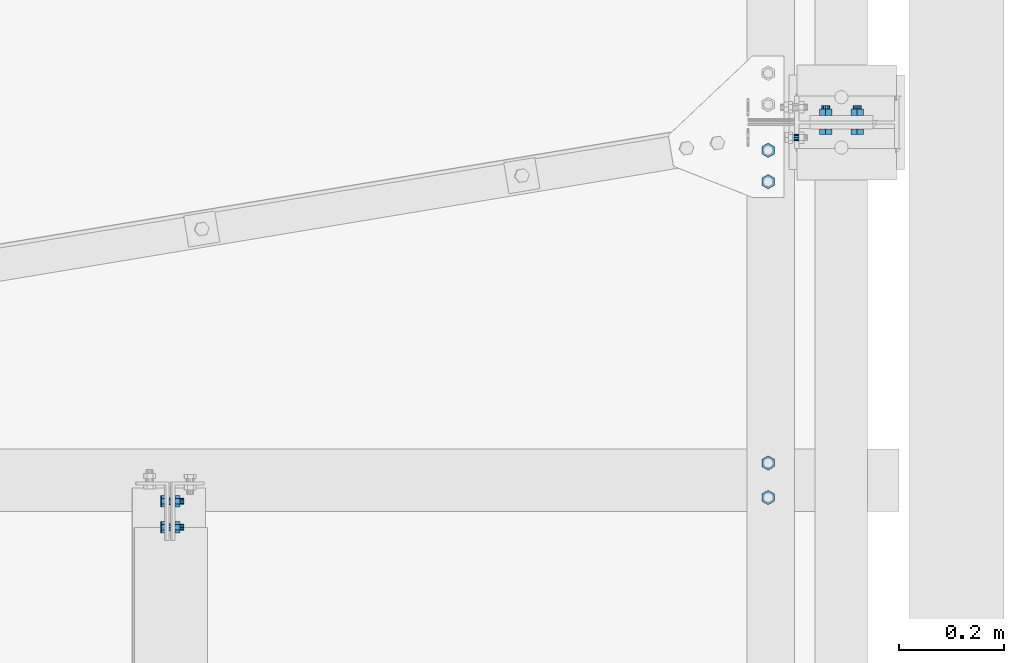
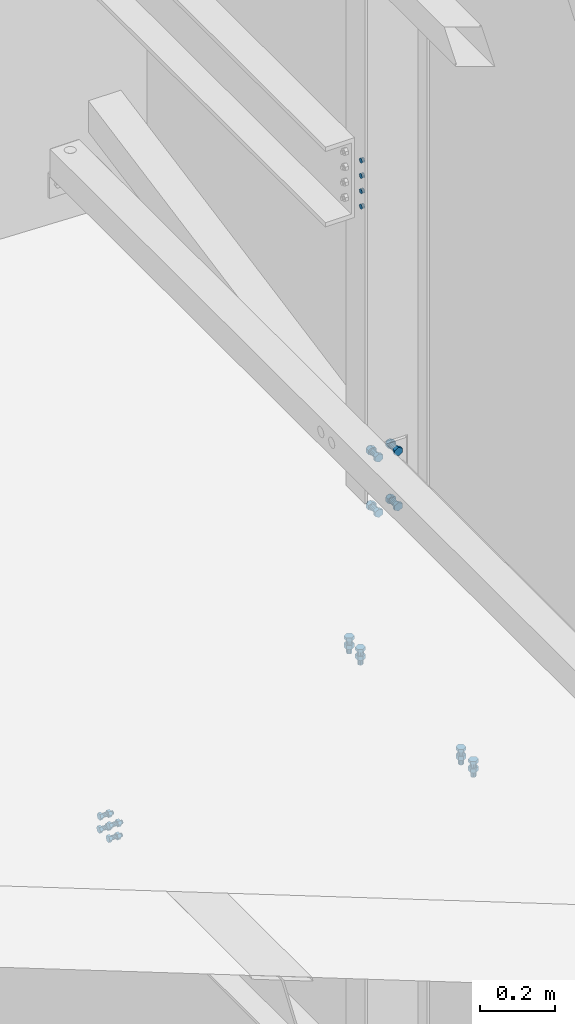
# One storey, part 397 of 3134: 5 mechanical fasteners, 3 elements without a shape of their own.
"""IFC2X3 building model written with IfcOpenShell, lengths in millimetres."""

from ifc_helpers import new_model, si_unit, frame, origin_with_axes, place, context, subcontext, project, spatial, faceted_brep, source, transform, mapped, material, type_object, element, aggregate, save


model = new_model("IFC2X3")

# Units and contexts
model_context = context("Model", 3, precision=1e-05, world=origin_with_axes())
body_context = subcontext(model_context, "Body", "Model", "MODEL_VIEW")
ifc_project = project(units=[si_unit("LENGTHUNIT", "METRE", prefix="MILLI"), si_unit("AREAUNIT", "SQUARE_METRE"), si_unit("VOLUMEUNIT", "CUBIC_METRE"), si_unit("MASSUNIT", "GRAM", prefix="KILO"), si_unit("TIMEUNIT", "SECOND"), si_unit("PLANEANGLEUNIT", "RADIAN"), si_unit("SOLIDANGLEUNIT", "STERADIAN"), si_unit("THERMODYNAMICTEMPERATUREUNIT", "DEGREE_CELSIUS"), si_unit("LUMINOUSINTENSITYUNIT", "LUMEN")], contexts=[model_context])

# Site, building, storey
site_placement = place(None, origin_with_axes())
site = spatial("IfcSite", under=ifc_project, at=site_placement, CompositionType="ELEMENT")
building_placement = place(site_placement, origin_with_axes())
building = spatial("IfcBuilding", under=site, at=building_placement, Name="Undefined", CompositionType="ELEMENT")
storey_placement = place(building_placement, origin_with_axes())
storey = spatial("IfcBuildingStorey", under=building, at=storey_placement, Name="Undefined", CompositionType="ELEMENT", Elevation=0.0)

# Assembly, mechanical fastener
assembly_1_placement = place(storey_placement, origin_with_axes())
assembly_1 = element("IfcElementAssembly", 1, at=assembly_1_placement, inside=storey, Name="IPE200", AssemblyPlace="NOTDEFINED", PredefinedType="RIGID_FRAME")
ifc_material = material(Name="8.8")
mechanical_fastener_type = type_object("IfcMechanicalFastenerType", Name="Bolt assembly")
shared_shape_1 = source(origin_with_axes(), body_context, "Body", "Brep", [
    faceted_brep([(13.856406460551, -20.0, 0.0), (6.92820323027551, -20.0, 12.0), (-6.92820323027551, -20.0, 12.0), (-13.856406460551, -20.0, 1.69692038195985e-15), (-6.92820323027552, -20.0, -12.0), (6.9282032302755, -20.0, -12.0), (6.9282032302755, -10.0, -12.0), (-6.92820323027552, -10.0, -12.0), (-13.856406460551, -10.0, 1.69692038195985e-15), (-6.92820323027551, -10.0, 12.0), (6.92820323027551, -10.0, 12.0), (13.856406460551, -10.0, 0.0), (8.0, -10.0, 0.0), (6.92820323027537, -10.0, 4.00000000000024), (3.99999999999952, -10.0, 6.92820323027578), (-8.29068785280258e-13, -10.0, 8.0), (-4.00000000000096, -10.0, 6.92820323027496), (-6.9282032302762, -10.0, 3.99999999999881), (-8.0, -10.0, -1.65813757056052e-12), (-6.92820323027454, -10.0, -4.00000000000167), (-3.99999999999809, -10.0, -6.92820323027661), (2.47832457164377e-12, -10.0, -8.0), (4.00000000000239, -10.0, -6.92820323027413), (6.92820323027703, -10.0, -3.99999999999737), (6.92820323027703, 35.0000000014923, -3.99999999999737), (4.00000000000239, 35.0000000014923, -6.92820323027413), (2.47832457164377e-12, 35.0000000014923, -8.0), (-3.99999999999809, 35.0000000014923, -6.92820323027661), (-6.92820323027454, 35.0000000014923, -4.00000000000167), (-8.0, 35.0000000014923, -1.65813757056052e-12), (-6.9282032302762, 35.0000000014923, 3.99999999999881), (-4.00000000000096, 35.0000000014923, 6.92820323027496), (-8.29068785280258e-13, 35.0000000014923, 8.0), (3.99999999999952, 35.0000000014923, 6.92820323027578), (6.92820323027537, 35.0000000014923, 4.00000000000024), (8.0, 35.0000000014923, 0.0), (13.856406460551, 15.5999999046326, 0.0), (6.92820323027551, 15.5999999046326, 12.0), (-6.92820323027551, 15.5999999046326, 12.0), (-13.856406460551, 15.5999999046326, 1.69692038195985e-15), (-6.92820323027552, 15.5999999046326, -12.0), (6.9282032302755, 15.5999999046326, -12.0), (6.9282032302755, 28.5999999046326, -12.0), (-6.92820323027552, 28.5999999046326, -12.0), (-13.856406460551, 28.5999999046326, 1.69692038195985e-15), (-6.92820323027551, 28.5999999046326, 12.0), (6.92820323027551, 28.5999999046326, 12.0), (13.856406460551, 28.5999999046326, 0.0)], [[[0, 1, 2, 3, 4, 5]], [[6, 7, 8, 9, 10, 11]], [[0, 11, 10, 1]], [[1, 10, 9, 2]], [[2, 9, 8, 3]], [[3, 8, 7, 4]], [[4, 7, 6, 5]], [[5, 6, 11, 0]], [[12, 13, 14, 15, 16, 17, 18, 19, 20, 21, 22, 23]], [[24, 25, 26, 27, 28, 29, 30, 31, 32, 33, 34, 35]], [[12, 35, 34, 13]], [[13, 34, 33, 14]], [[14, 33, 32, 15]], [[15, 32, 31, 16]], [[16, 31, 30, 17]], [[17, 30, 29, 18]], [[18, 29, 28, 19]], [[19, 28, 27, 20]], [[20, 27, 26, 21]], [[21, 26, 25, 22]], [[22, 25, 24, 23]], [[23, 24, 35, 12]], [[36, 37, 38, 39, 40, 41]], [[42, 43, 44, 45, 46, 47]], [[36, 47, 46, 37]], [[37, 46, 45, 38]], [[38, 45, 44, 39]], [[39, 44, 43, 40]], [[40, 43, 42, 41]], [[41, 42, 47, 36]]]),
    faceted_brep([(9.0, -9.89999997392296, 0.0), (7.79422863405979, -9.89999997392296, 4.50000000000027), (4.49999999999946, -9.89999997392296, 7.79422863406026), (-9.3270238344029e-13, -9.89999997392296, 9.0), (-4.50000000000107, -9.89999997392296, 7.79422863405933), (-7.79422863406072, -9.89999997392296, 4.49999999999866), (-9.0, -9.89999997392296, -1.86540476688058e-12), (-7.79422863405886, -9.89999997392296, -4.50000000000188), (-4.49999999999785, -9.89999997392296, -7.79422863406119), (2.78811514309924e-12, -9.89999997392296, -9.0), (4.50000000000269, -9.89999997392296, -7.7942286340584), (7.79422863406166, -9.89999997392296, -4.49999999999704), (7.79422863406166, 0.100000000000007, -4.49999999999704), (4.50000000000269, 0.100000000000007, -7.7942286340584), (2.78811514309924e-12, 0.100000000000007, -9.0), (-4.49999999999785, 0.100000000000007, -7.79422863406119), (-7.79422863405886, 0.100000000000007, -4.50000000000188), (-9.0, 0.100000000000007, -1.86540476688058e-12), (-7.79422863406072, 0.100000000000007, 4.49999999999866), (-4.50000000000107, 0.100000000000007, 7.79422863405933), (-9.3270238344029e-13, 0.100000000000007, 9.0), (4.49999999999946, 0.100000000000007, 7.79422863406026), (7.79422863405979, 0.100000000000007, 4.50000000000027), (9.0, 0.100000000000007, 0.0), (9.0, -3.46568413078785e-07, 0.0), (7.79422863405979, -3.46568413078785e-07, 4.50000000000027), (4.49999999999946, -3.46568413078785e-07, 7.79422863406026), (-9.3270238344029e-13, -3.46568413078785e-07, 9.0), (-4.50000000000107, -3.46568413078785e-07, 7.79422863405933), (-7.79422863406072, -3.46568413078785e-07, 4.49999999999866), (-9.0, -3.46568413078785e-07, -1.86540476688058e-12), (-7.79422863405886, -3.46568413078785e-07, -4.50000000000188), (-4.49999999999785, -3.46568413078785e-07, -7.79422863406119), (2.78811514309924e-12, -3.46568413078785e-07, -9.0), (4.50000000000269, -3.46568413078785e-07, -7.7942286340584), (7.79422863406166, -3.46568413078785e-07, -4.49999999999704), (7.79422863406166, 5.59999990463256, -4.49999999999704), (4.50000000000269, 5.59999990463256, -7.7942286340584), (2.78811514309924e-12, 5.59999990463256, -9.0), (-4.49999999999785, 5.59999990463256, -7.79422863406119), (-7.79422863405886, 5.59999990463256, -4.50000000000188), (-9.0, 5.59999990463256, -1.86540476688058e-12), (-7.79422863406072, 5.59999990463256, 4.49999999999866), (-4.50000000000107, 5.59999990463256, 7.79422863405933), (-9.3270238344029e-13, 5.59999990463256, 9.0), (4.49999999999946, 5.59999990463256, 7.79422863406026), (7.79422863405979, 5.59999990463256, 4.50000000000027), (9.0, 5.59999990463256, 0.0), (9.0, 5.49999990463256, 0.0), (7.79422863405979, 5.49999990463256, 4.50000000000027), (4.49999999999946, 5.49999990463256, 7.79422863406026), (-9.3270238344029e-13, 5.49999990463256, 9.0), (-4.50000000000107, 5.49999990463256, 7.79422863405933), (-7.79422863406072, 5.49999990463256, 4.49999999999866), (-9.0, 5.49999990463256, -1.86540476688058e-12), (-7.79422863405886, 5.49999990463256, -4.50000000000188), (-4.49999999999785, 5.49999990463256, -7.79422863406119), (2.78811514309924e-12, 5.49999990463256, -9.0), (4.50000000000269, 5.49999990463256, -7.7942286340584), (7.79422863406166, 5.49999990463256, -4.49999999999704), (7.79422863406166, 15.5999999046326, -4.49999999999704), (4.50000000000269, 15.5999999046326, -7.7942286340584), (2.78811514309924e-12, 15.5999999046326, -9.0), (-4.49999999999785, 15.5999999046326, -7.79422863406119), (-7.79422863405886, 15.5999999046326, -4.50000000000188), (-9.0, 15.5999999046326, -1.86540476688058e-12), (-7.79422863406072, 15.5999999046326, 4.49999999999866), (-4.50000000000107, 15.5999999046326, 7.79422863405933), (-9.3270238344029e-13, 15.5999999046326, 9.0), (4.49999999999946, 15.5999999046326, 7.79422863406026), (7.79422863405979, 15.5999999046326, 4.50000000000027), (9.0, 15.5999999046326, 0.0)], [[[0, 1, 2, 3, 4, 5, 6, 7, 8, 9, 10, 11]], [[12, 13, 14, 15, 16, 17, 18, 19, 20, 21, 22, 23]], [[0, 23, 22, 1]], [[1, 22, 21, 2]], [[2, 21, 20, 3]], [[3, 20, 19, 4]], [[4, 19, 18, 5]], [[5, 18, 17, 6]], [[6, 17, 16, 7]], [[7, 16, 15, 8]], [[8, 15, 14, 9]], [[9, 14, 13, 10]], [[10, 13, 12, 11]], [[11, 12, 23, 0]], [[24, 25, 26, 27, 28, 29, 30, 31, 32, 33, 34, 35]], [[36, 37, 38, 39, 40, 41, 42, 43, 44, 45, 46, 47]], [[24, 47, 46, 25]], [[25, 46, 45, 26]], [[26, 45, 44, 27]], [[27, 44, 43, 28]], [[28, 43, 42, 29]], [[29, 42, 41, 30]], [[30, 41, 40, 31]], [[31, 40, 39, 32]], [[32, 39, 38, 33]], [[33, 38, 37, 34]], [[34, 37, 36, 35]], [[35, 36, 47, 24]], [[48, 49, 50, 51, 52, 53, 54, 55, 56, 57, 58, 59]], [[60, 61, 62, 63, 64, 65, 66, 67, 68, 69, 70, 71]], [[48, 71, 70, 49]], [[49, 70, 69, 50]], [[50, 69, 68, 51]], [[51, 68, 67, 52]], [[52, 67, 66, 53]], [[53, 66, 65, 54]], [[54, 65, 64, 55]], [[55, 64, 63, 56]], [[56, 63, 62, 57]], [[57, 62, 61, 58]], [[58, 61, 60, 59]], [[59, 60, 71, 48]]]),
])
mechanical_fastener_1_placement = place(assembly_1_placement, frame((79225.0, 24647.2000000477, 4064.781243), z_axis=(1.0, 0.0, 0.0), x_axis=(0.0, 0.0, -1.0)))
mechanical_fastener_1 = element("IfcMechanicalFastener", 2, at=mechanical_fastener_1_placement, type_object=mechanical_fastener_type, material=ifc_material, Name="Bolt assembly", NominalDiameter=16.0, NominalLength=45.0, context=body_context, shape_type="MappedRepresentation", body=[
    mapped(shared_shape_1, transform((0.0, 4.54747350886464e-13, -30.0000000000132))),
    mapped(shared_shape_1, transform((180.0, 0.0, -30.0))),
    mapped(shared_shape_1, transform((0.0, 4.54747350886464e-13, 30.0000000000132))),
    mapped(shared_shape_1, transform((180.0, 0.0, 30.0))),
])

# Assembly, mechanical fasteners
assembly_2_placement = place(storey_placement, origin_with_axes())
assembly_2 = element("IfcElementAssembly", 3, at=assembly_2_placement, inside=storey, Name="UPN260", AssemblyPlace="NOTDEFINED", PredefinedType="RIGID_FRAME")
shared_shape_2 = source(origin_with_axes(), body_context, "Body", "Brep", [
    faceted_brep([(13.856406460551, -10.0, 0.0), (6.92820323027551, -10.0, 12.0), (-6.92820323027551, -10.0, 12.0), (-13.856406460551, -10.0, 1.69692038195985e-15), (-6.92820323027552, -10.0, -12.0), (6.9282032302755, -10.0, -12.0), (6.9282032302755, 0.0, -12.0), (-6.92820323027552, 0.0, -12.0), (-13.856406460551, 0.0, 1.69692038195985e-15), (-6.92820323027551, 0.0, 12.0), (6.92820323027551, 0.0, 12.0), (13.856406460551, 0.0, 0.0), (8.0, 0.0, 0.0), (6.92820323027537, 0.0, 4.00000000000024), (3.99999999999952, 0.0, 6.92820323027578), (-8.29068785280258e-13, 0.0, 8.0), (-4.00000000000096, 0.0, 6.92820323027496), (-6.9282032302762, 0.0, 3.99999999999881), (-8.0, 0.0, -1.65813757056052e-12), (-6.92820323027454, 0.0, -4.00000000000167), (-3.99999999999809, 0.0, -6.92820323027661), (2.47832457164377e-12, 0.0, -8.0), (4.00000000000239, 0.0, -6.92820323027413), (6.92820323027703, 0.0, -3.99999999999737), (6.92820323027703, 45.0, -3.99999999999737), (4.00000000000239, 45.0, -6.92820323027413), (2.47832457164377e-12, 45.0, -8.0), (-3.99999999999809, 45.0, -6.92820323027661), (-6.92820323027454, 45.0, -4.00000000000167), (-8.0, 45.0, -1.65813757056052e-12), (-6.9282032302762, 45.0, 3.99999999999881), (-4.00000000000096, 45.0, 6.92820323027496), (-8.29068785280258e-13, 45.0, 8.0), (3.99999999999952, 45.0, 6.92820323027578), (6.92820323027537, 45.0, 4.00000000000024), (8.0, 45.0, 0.0), (13.856406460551, 13.9999999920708, 0.0), (6.92820323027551, 13.9999999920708, 12.0), (-6.92820323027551, 13.9999999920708, 12.0), (-13.856406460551, 13.9999999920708, 1.69692038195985e-15), (-6.92820323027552, 13.9999999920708, -12.0), (6.9282032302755, 13.9999999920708, -12.0), (6.9282032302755, 27.0, -12.0), (-6.92820323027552, 27.0, -12.0), (-13.856406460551, 27.0, 1.69692038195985e-15), (-6.92820323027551, 27.0, 12.0), (6.92820323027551, 27.0, 12.0), (13.856406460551, 27.0, 0.0)], [[[0, 1, 2, 3, 4, 5]], [[6, 7, 8, 9, 10, 11]], [[0, 11, 10, 1]], [[1, 10, 9, 2]], [[2, 9, 8, 3]], [[3, 8, 7, 4]], [[4, 7, 6, 5]], [[5, 6, 11, 0]], [[12, 13, 14, 15, 16, 17, 18, 19, 20, 21, 22, 23]], [[24, 25, 26, 27, 28, 29, 30, 31, 32, 33, 34, 35]], [[12, 35, 34, 13]], [[13, 34, 33, 14]], [[14, 33, 32, 15]], [[15, 32, 31, 16]], [[16, 31, 30, 17]], [[17, 30, 29, 18]], [[18, 29, 28, 19]], [[19, 28, 27, 20]], [[20, 27, 26, 21]], [[21, 26, 25, 22]], [[22, 25, 24, 23]], [[23, 24, 35, 12]], [[36, 37, 38, 39, 40, 41]], [[42, 43, 44, 45, 46, 47]], [[36, 47, 46, 37]], [[37, 46, 45, 38]], [[38, 45, 44, 39]], [[39, 44, 43, 40]], [[40, 43, 42, 41]], [[41, 42, 47, 36]]]),
    faceted_brep([(9.0, -3.46568413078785e-07, 0.0), (7.79422863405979, -3.46568413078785e-07, 4.50000000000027), (4.49999999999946, -3.46568413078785e-07, 7.79422863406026), (-9.3270238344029e-13, -3.46568413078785e-07, 9.0), (-4.50000000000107, -3.46568413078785e-07, 7.79422863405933), (-7.79422863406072, -3.46568413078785e-07, 4.49999999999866), (-9.0, -3.46568413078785e-07, -1.86540476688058e-12), (-7.79422863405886, -3.46568413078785e-07, -4.50000000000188), (-4.49999999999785, -3.46568413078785e-07, -7.79422863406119), (2.78811514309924e-12, -3.46568413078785e-07, -9.0), (4.50000000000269, -3.46568413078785e-07, -7.7942286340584), (7.79422863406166, -3.46568413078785e-07, -4.49999999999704), (7.79422863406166, 14.1000000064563, -4.49999999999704), (4.50000000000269, 14.1000000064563, -7.7942286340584), (2.78811514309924e-12, 14.1000000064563, -9.0), (-4.49999999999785, 14.1000000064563, -7.79422863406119), (-7.79422863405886, 14.1000000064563, -4.50000000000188), (-9.0, 14.1000000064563, -1.86540476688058e-12), (-7.79422863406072, 14.1000000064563, 4.49999999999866), (-4.50000000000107, 14.1000000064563, 7.79422863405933), (-9.3270238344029e-13, 14.1000000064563, 9.0), (4.49999999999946, 14.1000000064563, 7.79422863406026), (7.79422863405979, 14.1000000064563, 4.50000000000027), (9.0, 14.1000000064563, 0.0)], [[[0, 1, 2, 3, 4, 5, 6, 7, 8, 9, 10, 11]], [[12, 13, 14, 15, 16, 17, 18, 19, 20, 21, 22, 23]], [[0, 23, 22, 1]], [[1, 22, 21, 2]], [[2, 21, 20, 3]], [[3, 20, 19, 4]], [[4, 19, 18, 5]], [[5, 18, 17, 6]], [[6, 17, 16, 7]], [[7, 16, 15, 8]], [[8, 15, 14, 9]], [[9, 14, 13, 10]], [[10, 13, 12, 11]], [[11, 12, 23, 0]]]),
])
mechanical_fastener_2_placement = place(assembly_2_placement, frame((79085.0000000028, 24536.683333, 3532.96480900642), z_axis=(-0.99999999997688, 0.0, -6.80000067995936e-06), x_axis=(0.0, 1.0, 0.0)))
mechanical_fastener_2 = element("IfcMechanicalFastener", 4, at=mechanical_fastener_2_placement, type_object=mechanical_fastener_type, material=ifc_material, Name="Bolt assembly", NominalDiameter=16.0, NominalLength=45.0, context=body_context, shape_type="MappedRepresentation", body=[
    mapped(shared_shape_2, transform((0.0, 0.0, 0.0))),
    mapped(shared_shape_2, transform((59.9999999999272, 0.0, 5.40239852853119e-10))),
])
mechanical_fastener_3_placement = place(assembly_2_placement, frame((79085.0, 23933.663333, 3532.964809), z_axis=(-1.0, 0.0, 0.0), x_axis=(0.0, 1.0, 0.0)))
mechanical_fastener_3 = element("IfcMechanicalFastener", 5, at=mechanical_fastener_3_placement, type_object=mechanical_fastener_type, material=ifc_material, Name="Bolt assembly", NominalDiameter=16.0, NominalLength=45.0, context=body_context, shape_type="MappedRepresentation", body=[
    mapped(shared_shape_2, transform((0.0, 0.0, 0.0))),
    mapped(shared_shape_2, transform((66.0, 0.0, 0.0))),
])
aggregate(assembly_2, [mechanical_fastener_2, mechanical_fastener_3])

# Assembly, mechanical fastener
assembly_3_placement = place(storey_placement, origin_with_axes())
assembly_3 = element("IfcElementAssembly", 6, at=assembly_3_placement, inside=storey, AssemblyPlace="NOTDEFINED", PredefinedType="RIGID_FRAME")
shared_shape_3 = source(origin_with_axes(), body_context, "Body", "Brep", [
    faceted_brep([(10.9696551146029, -19.2575524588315, 0.0), (5.48482755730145, -19.2575524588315, 9.5), (-5.48482755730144, -19.2575524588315, 9.5), (-10.9696551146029, -19.2575524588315, 1.34339530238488e-15), (-5.48482755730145, -19.2575524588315, -9.5), (5.48482755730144, -19.2575524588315, -9.50000000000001), (5.48482755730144, -11.2575524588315, -9.50000000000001), (-5.48482755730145, -11.2575524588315, -9.5), (-10.9696551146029, -11.2575524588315, 1.34339530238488e-15), (-5.48482755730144, -11.2575524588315, 9.5), (5.48482755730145, -11.2575524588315, 9.5), (10.9696551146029, -11.2575524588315, 0.0), (6.0, -11.2575524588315, 0.0), (5.19615242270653, -11.2575524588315, 3.00000000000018), (2.99999999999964, -11.2575524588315, 5.19615242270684), (-6.21801588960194e-13, -11.2575524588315, 6.0), (-3.00000000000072, -11.2575524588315, 5.19615242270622), (-5.19615242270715, -11.2575524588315, 2.9999999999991), (-6.0, -11.2575524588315, -1.24360317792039e-12), (-5.19615242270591, -11.2575524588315, -3.00000000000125), (-2.99999999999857, -11.2575524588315, -5.19615242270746), (1.85874342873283e-12, -11.2575524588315, -6.0), (3.00000000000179, -11.2575524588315, -5.1961524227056), (5.19615242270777, -11.2575524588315, -2.99999999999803), (5.19615242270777, 23.7424475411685, -2.99999999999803), (3.00000000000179, 23.7424475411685, -5.1961524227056), (1.85874342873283e-12, 23.7424475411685, -6.0), (-2.99999999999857, 23.7424475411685, -5.19615242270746), (-5.19615242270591, 23.7424475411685, -3.00000000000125), (-6.0, 23.7424475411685, -1.24360317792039e-12), (-5.19615242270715, 23.7424475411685, 2.9999999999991), (-3.00000000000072, 23.7424475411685, 5.19615242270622), (-6.21801588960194e-13, 23.7424475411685, 6.0), (2.99999999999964, 23.7424475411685, 5.19615242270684), (5.19615242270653, 23.7424475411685, 3.00000000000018), (6.0, 23.7424475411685, 0.0), (10.9696551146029, 6.25018760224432, 0.0), (5.48482755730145, 6.25018760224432, 9.5), (-5.48482755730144, 6.25018760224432, 9.5), (-10.9696551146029, 6.25018760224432, 1.34339530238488e-15), (-5.48482755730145, 6.25018760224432, -9.5), (5.48482755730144, 6.25018760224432, -9.50000000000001), (5.48482755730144, 16.2501876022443, -9.50000000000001), (-5.48482755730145, 16.2501876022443, -9.5), (-10.9696551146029, 16.2501876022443, 1.34339530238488e-15), (-5.48482755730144, 16.2501876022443, 9.5), (5.48482755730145, 16.2501876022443, 9.5), (10.9696551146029, 16.2501876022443, 0.0)], [[[0, 1, 2, 3, 4, 5]], [[6, 7, 8, 9, 10, 11]], [[0, 11, 10, 1]], [[1, 10, 9, 2]], [[2, 9, 8, 3]], [[3, 8, 7, 4]], [[4, 7, 6, 5]], [[5, 6, 11, 0]], [[12, 13, 14, 15, 16, 17, 18, 19, 20, 21, 22, 23]], [[24, 25, 26, 27, 28, 29, 30, 31, 32, 33, 34, 35]], [[12, 35, 34, 13]], [[13, 34, 33, 14]], [[14, 33, 32, 15]], [[15, 32, 31, 16]], [[16, 31, 30, 17]], [[17, 30, 29, 18]], [[18, 29, 28, 19]], [[19, 28, 27, 20]], [[20, 27, 26, 21]], [[21, 26, 25, 22]], [[22, 25, 24, 23]], [[23, 24, 35, 12]], [[36, 37, 38, 39, 40, 41]], [[42, 43, 44, 45, 46, 47]], [[36, 47, 46, 37]], [[37, 46, 45, 38]], [[38, 45, 44, 39]], [[39, 44, 43, 40]], [[40, 43, 42, 41]], [[41, 42, 47, 36]]]),
    faceted_brep([(7.0, -11.1575524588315, 0.0), (6.06217782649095, -11.1575524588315, 3.50000000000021), (3.49999999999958, -11.1575524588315, 6.06217782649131), (-7.25435187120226e-13, -11.1575524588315, 7.0), (-3.50000000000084, -11.1575524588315, 6.06217782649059), (-6.06217782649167, -11.1575524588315, 3.49999999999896), (-7.0, -11.1575524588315, -1.45087037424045e-12), (-6.06217782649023, -11.1575524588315, -3.50000000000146), (-3.49999999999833, -11.1575524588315, -6.06217782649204), (2.1685340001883e-12, -11.1575524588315, -7.0), (3.50000000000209, -11.1575524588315, -6.06217782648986), (6.0621778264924, -11.1575524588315, -3.4999999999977), (6.0621778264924, -5.15755245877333, -3.4999999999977), (3.50000000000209, -5.15755245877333, -6.06217782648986), (2.1685340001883e-12, -5.15755245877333, -7.0), (-3.49999999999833, -5.15755245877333, -6.06217782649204), (-6.06217782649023, -5.15755245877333, -3.50000000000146), (-7.0, -5.15755245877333, -1.45087037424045e-12), (-6.06217782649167, -5.15755245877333, 3.49999999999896), (-3.50000000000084, -5.15755245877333, 6.06217782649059), (-7.25435187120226e-13, -5.15755245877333, 7.0), (3.49999999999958, -5.15755245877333, 6.06217782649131), (6.06217782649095, -5.15755245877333, 3.50000000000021), (7.0, -5.15755245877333, 0.0), (7.0, 0.150187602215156, 0.0), (6.06217782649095, 0.150187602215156, 3.50000000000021), (3.49999999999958, 0.150187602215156, 6.06217782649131), (-7.25435187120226e-13, 0.150187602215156, 7.0), (-3.50000000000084, 0.150187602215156, 6.06217782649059), (-6.06217782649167, 0.150187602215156, 3.49999999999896), (-7.0, 0.150187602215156, -1.45087037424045e-12), (-6.06217782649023, 0.150187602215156, -3.50000000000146), (-3.49999999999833, 0.150187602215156, -6.06217782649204), (2.1685340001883e-12, 0.150187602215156, -7.0), (3.50000000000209, 0.150187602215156, -6.06217782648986), (6.0621778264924, 0.150187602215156, -3.4999999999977), (6.0621778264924, 6.25018760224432, -3.4999999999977), (3.50000000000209, 6.25018760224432, -6.06217782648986), (2.1685340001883e-12, 6.25018760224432, -7.0), (-3.49999999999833, 6.25018760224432, -6.06217782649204), (-6.06217782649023, 6.25018760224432, -3.50000000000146), (-7.0, 6.25018760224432, -1.45087037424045e-12), (-6.06217782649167, 6.25018760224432, 3.49999999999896), (-3.50000000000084, 6.25018760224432, 6.06217782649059), (-7.25435187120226e-13, 6.25018760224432, 7.0), (3.49999999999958, 6.25018760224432, 6.06217782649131), (6.06217782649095, 6.25018760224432, 3.50000000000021), (7.0, 6.25018760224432, 0.0), (7.0, -5.25082704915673, 0.0), (6.06217782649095, -5.25082704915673, 3.50000000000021), (3.49999999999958, -5.25082704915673, 6.06217782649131), (-7.25435187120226e-13, -5.25082704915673, 7.0), (-3.50000000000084, -5.25082704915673, 6.06217782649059), (-6.06217782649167, -5.25082704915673, 3.49999999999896), (-7.0, -5.25082704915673, -1.45087037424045e-12), (-6.06217782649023, -5.25082704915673, -3.50000000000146), (-3.49999999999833, -5.25082704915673, -6.06217782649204), (2.1685340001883e-12, -5.25082704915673, -7.0), (3.50000000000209, -5.25082704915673, -6.06217782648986), (6.0621778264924, -5.25082704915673, -3.4999999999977), (6.0621778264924, 0.249172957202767, -3.4999999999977), (3.50000000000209, 0.249172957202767, -6.06217782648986), (2.1685340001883e-12, 0.249172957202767, -7.0), (-3.49999999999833, 0.249172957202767, -6.06217782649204), (-6.06217782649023, 0.249172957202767, -3.50000000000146), (-7.0, 0.249172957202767, -1.45087037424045e-12), (-6.06217782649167, 0.249172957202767, 3.49999999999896), (-3.50000000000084, 0.249172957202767, 6.06217782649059), (-7.25435187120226e-13, 0.249172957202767, 7.0), (3.49999999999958, 0.249172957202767, 6.06217782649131), (6.06217782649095, 0.249172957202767, 3.50000000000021), (7.0, 0.249172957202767, 0.0)], [[[0, 1, 2, 3, 4, 5, 6, 7, 8, 9, 10, 11]], [[12, 13, 14, 15, 16, 17, 18, 19, 20, 21, 22, 23]], [[0, 23, 22, 1]], [[1, 22, 21, 2]], [[2, 21, 20, 3]], [[3, 20, 19, 4]], [[4, 19, 18, 5]], [[5, 18, 17, 6]], [[6, 17, 16, 7]], [[7, 16, 15, 8]], [[8, 15, 14, 9]], [[9, 14, 13, 10]], [[10, 13, 12, 11]], [[11, 12, 23, 0]], [[24, 25, 26, 27, 28, 29, 30, 31, 32, 33, 34, 35]], [[36, 37, 38, 39, 40, 41, 42, 43, 44, 45, 46, 47]], [[24, 47, 46, 25]], [[25, 46, 45, 26]], [[26, 45, 44, 27]], [[27, 44, 43, 28]], [[28, 43, 42, 29]], [[29, 42, 41, 30]], [[30, 41, 40, 31]], [[31, 40, 39, 32]], [[32, 39, 38, 33]], [[33, 38, 37, 34]], [[34, 37, 36, 35]], [[35, 36, 47, 24]], [[48, 49, 50, 51, 52, 53, 54, 55, 56, 57, 58, 59]], [[60, 61, 62, 63, 64, 65, 66, 67, 68, 69, 70, 71]], [[48, 71, 70, 49]], [[49, 70, 69, 50]], [[50, 69, 68, 51]], [[51, 68, 67, 52]], [[52, 67, 66, 53]], [[53, 66, 65, 54]], [[54, 65, 64, 55]], [[55, 64, 63, 56]], [[56, 63, 62, 57]], [[57, 62, 61, 58]], [[58, 61, 60, 59]], [[59, 60, 71, 48]]]),
])
mechanical_fastener_4_placement = place(assembly_3_placement, frame((77945.0588759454, 23926.66, 3743.49470157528), z_axis=(0.0309396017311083, 0.0, 0.999521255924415), x_axis=(0.0, -1.0, 0.0)))
mechanical_fastener_4 = element("IfcMechanicalFastener", 7, at=mechanical_fastener_4_placement, type_object=mechanical_fastener_type, material=ifc_material, Name="Bolt assembly", NominalDiameter=12.0, NominalLength=35.0, context=body_context, shape_type="MappedRepresentation", body=[
    mapped(shared_shape_3, transform((0.0, 0.0, -21.0))),
    mapped(shared_shape_3, transform((50.0, -1.01863406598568e-10, -20.9999999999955))),
    mapped(shared_shape_3, transform((0.0, 0.0, 21.0))),
    mapped(shared_shape_3, transform((50.0, 1.30967237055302e-10, 20.9999999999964))),
])
aggregate(assembly_3, [mechanical_fastener_4])

# Mechanical fastener
shared_shape_4 = source(origin_with_axes(), body_context, "Body", "Brep", [
    faceted_brep([(7.0, -8.5, 0.0), (6.06217782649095, -8.5, 3.50000000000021), (3.49999999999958, -8.5, 6.06217782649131), (-7.25435187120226e-13, -8.5, 7.0), (-3.50000000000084, -8.5, 6.06217782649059), (-6.06217782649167, -8.5, 3.49999999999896), (-7.0, -8.5, -1.45087037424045e-12), (-6.06217782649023, -8.5, -3.50000000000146), (-3.49999999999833, -8.5, -6.06217782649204), (2.1685340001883e-12, -8.5, -7.0), (3.50000000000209, -8.5, -6.06217782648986), (6.0621778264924, -8.5, -3.4999999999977), (6.0621778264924, 0.0999999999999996, -3.4999999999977), (3.50000000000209, 0.0999999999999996, -6.06217782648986), (2.1685340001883e-12, 0.0999999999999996, -7.0), (-3.49999999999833, 0.0999999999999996, -6.06217782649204), (-6.06217782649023, 0.0999999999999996, -3.50000000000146), (-7.0, 0.0999999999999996, -1.45087037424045e-12), (-6.06217782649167, 0.0999999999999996, 3.49999999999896), (-3.50000000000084, 0.0999999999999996, 6.06217782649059), (-7.25435187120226e-13, 0.0999999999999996, 7.0), (3.49999999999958, 0.0999999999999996, 6.06217782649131), (6.06217782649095, 0.0999999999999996, 3.50000000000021), (7.0, 0.0999999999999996, 0.0)], [[[0, 1, 2, 3, 4, 5, 6, 7, 8, 9, 10, 11]], [[12, 13, 14, 15, 16, 17, 18, 19, 20, 21, 22, 23]], [[0, 23, 22, 1]], [[1, 22, 21, 2]], [[2, 21, 20, 3]], [[3, 20, 19, 4]], [[4, 19, 18, 5]], [[5, 18, 17, 6]], [[6, 17, 16, 7]], [[7, 16, 15, 8]], [[8, 15, 14, 9]], [[9, 14, 13, 10]], [[10, 13, 12, 11]], [[11, 12, 23, 0]]]),
])
mechanical_fastener_5_placement = place(assembly_1_placement, frame((79135.0, 24621.0, 5059.384809), z_axis=(0.0, 1.0, 0.0), x_axis=(0.0, 0.0, -1.0)))
mechanical_fastener_5 = element("IfcMechanicalFastener", 8, at=mechanical_fastener_5_placement, type_object=mechanical_fastener_type, material=ifc_material, Name="Bolt assembly", NominalDiameter=12.0, NominalLength=8.5, context=body_context, shape_type="MappedRepresentation", body=[
    mapped(shared_shape_4, transform((0.0, 0.0, 0.0))),
    mapped(shared_shape_4, transform((50.000000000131, -1.38243194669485e-10, 0.0))),
    mapped(shared_shape_4, transform((100.0, 0.0, 0.0))),
    mapped(shared_shape_4, transform((150.0, 0.0, 0.0))),
])

aggregate(assembly_1, [mechanical_fastener_1, mechanical_fastener_5])

save(model, "model.ifc")
